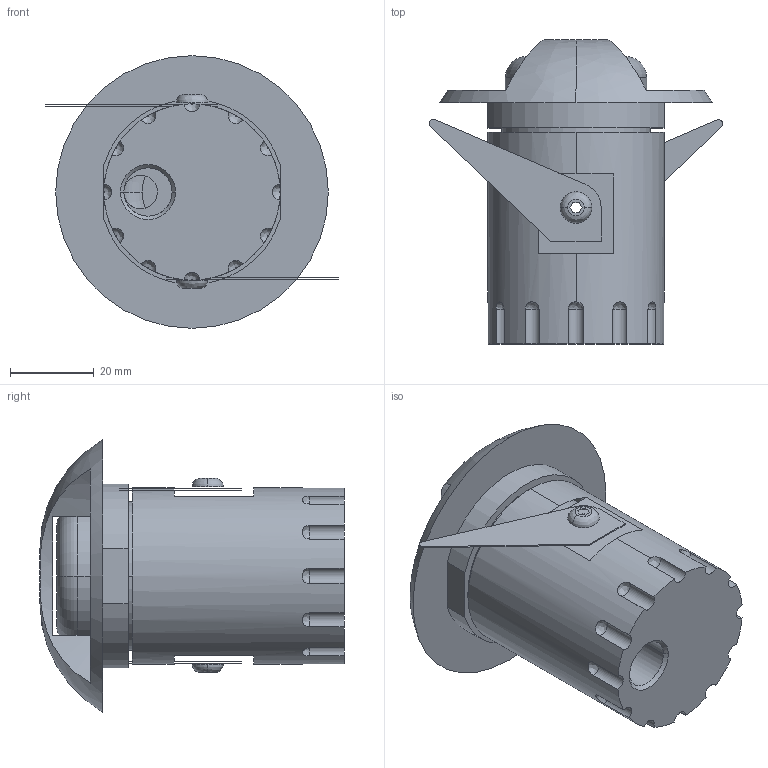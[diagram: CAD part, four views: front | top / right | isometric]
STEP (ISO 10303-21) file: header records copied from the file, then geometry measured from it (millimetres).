
FILE_DESCRIPTION((''),'2;1');
FILE_NAME('CALPESTABILE-VISIERA-_SW0001','2025-07-30T16:34:48',('Piccioli'),(''),'CREO PARAMETRIC BY PTC INC, 2025010','CREO PARAMETRIC BY PTC INC, 2025010','');
FILE_SCHEMA(('CONFIG_CONTROL_DESIGN'));
Length unit declared in the file: millimetre
Products named in the file (1): CALPESTABILE-VISIERA-_SW0001
Bounding box: 70 x 72.5 x 65 mm (x, y, z)
Surface area: 21978.7 mm2 (no closed solid volume)
Topology: 0 solids, 9 shells, 67 faces, 269 edges, 197 vertices
Faces by surface type: cylinder 26, plane 19, bspline 18, cone 2, torus 2
Entity records: 3907 total; most frequent: CARTESIAN_POINT 1627, DIRECTION 496, ORIENTED_EDGE 423, EDGE_CURVE 269, AXIS2_PLACEMENT_3D 204, VERTEX_POINT 197, CIRCLE 155, VECTOR 88
